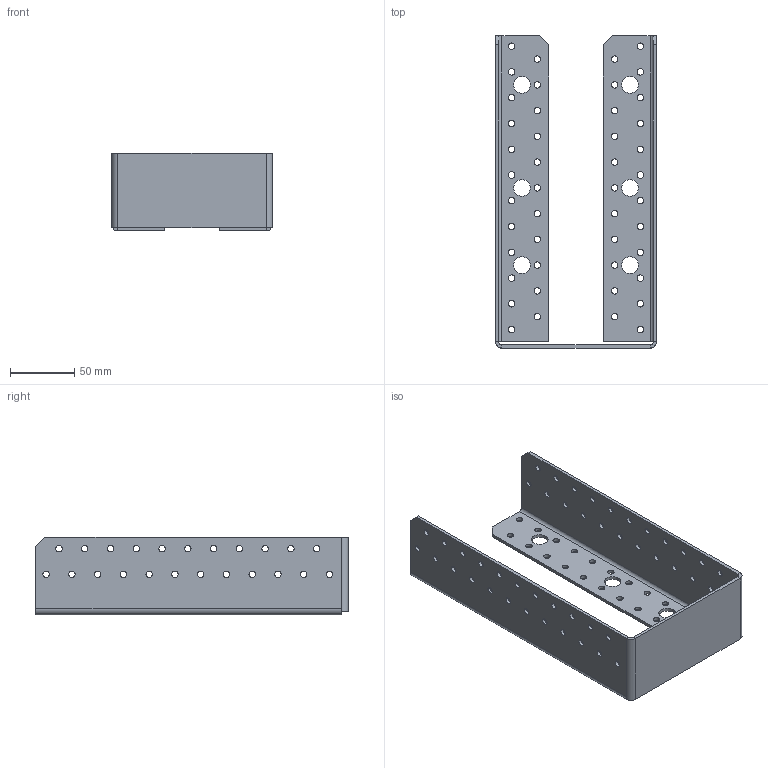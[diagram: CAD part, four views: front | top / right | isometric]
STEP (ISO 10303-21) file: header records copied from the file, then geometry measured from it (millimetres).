
FILE_DESCRIPTION (( 'STEP AP203' ), '1' );
FILE_NAME ('40505IKO.STEP', '2021-04-16T07:48:11', ( '' ), ( '' ), 'SwSTEP 2.0', 'SolidWorks 2013', '' );
FILE_SCHEMA (( 'CONFIG_CONTROL_DESIGN' ));
Length unit declared in the file: millimetre
Products named in the file (1): 40505IKO
Bounding box: 125 x 242.5 x 60.5 mm (x, y, z)
Volume: 127876.2 mm3; surface area: 110185.4 mm2
Topology: 1 solids, 1 shells, 240 faces, 684 edges, 446 vertices
Faces by surface type: cylinder 204, plane 36
Entity records: 8487 total; most frequent: DIRECTION 1576, CARTESIAN_POINT 1371, ORIENTED_EDGE 1368, EDGE_CURVE 684, AXIS2_PLACEMENT_3D 651, VERTEX_POINT 446, EDGE_LOOP 436, CIRCLE 410
